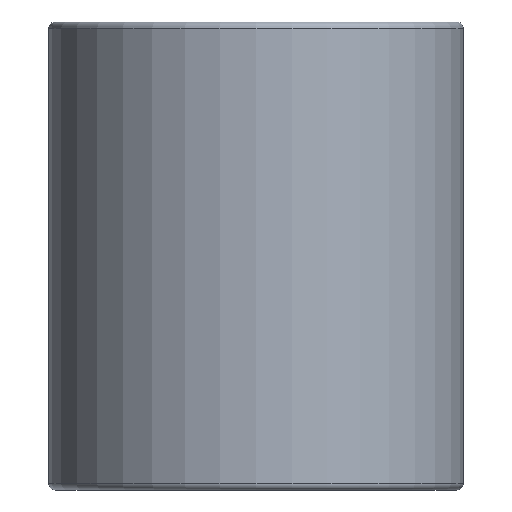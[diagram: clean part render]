
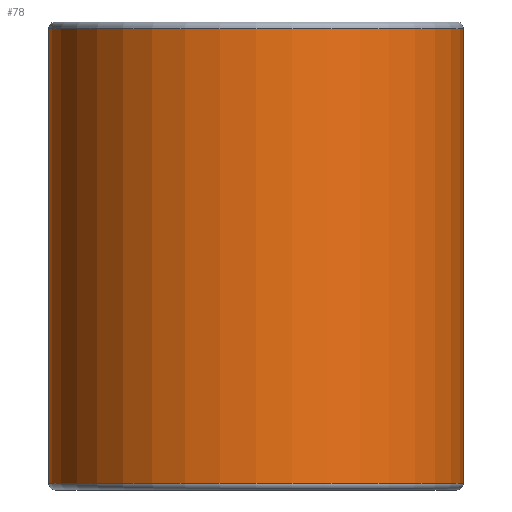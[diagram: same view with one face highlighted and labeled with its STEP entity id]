
A CAD part, front view. The second image highlights one B-rep face of the part: STEP entity #78.
In plain terms, the highlighted cylindrical face has radius 31 mm (diameter 62 mm), a full revolution.
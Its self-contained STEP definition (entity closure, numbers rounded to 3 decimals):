
#78=ADVANCED_FACE('',(#91,#92),#93,.T.);
#91=FACE_OUTER_BOUND('',#109,.T.);
#92=FACE_OUTER_BOUND('',#110,.T.);
#93=CYLINDRICAL_SURFACE('',#111,31.0);
#109=EDGE_LOOP('',(#133));
#110=EDGE_LOOP('',(#134));
#111=AXIS2_PLACEMENT_3D('',#135,#136,#137);
#133=ORIENTED_EDGE('',*,*,#152,.T.);
#134=ORIENTED_EDGE('',*,*,#153,.T.);
#135=CARTESIAN_POINT('',(0.0,0.0,35.0));
#136=DIRECTION('',(-0.0,-0.0,1.0));
#137=DIRECTION('',(-1.0,0.0,0.0));
#152=EDGE_CURVE('',#162,#162,#163,.T.);
#153=EDGE_CURVE('',#164,#164,#165,.F.);
#162=VERTEX_POINT('',#174);
#163=CIRCLE('',#175,31.0);
#164=VERTEX_POINT('',#176);
#165=CIRCLE('',#177,31.0);
#174=CARTESIAN_POINT('',(31.0,0.0,-34.0));
#175=AXIS2_PLACEMENT_3D('',#190,#191,#192);
#176=CARTESIAN_POINT('',(31.0,0.,34.0));
#177=AXIS2_PLACEMENT_3D('',#193,#194,#195);
#190=CARTESIAN_POINT('',(0.0,0.0,-34.0));
#191=DIRECTION('',(0.0,0.0,1.0));
#192=DIRECTION('',(1.0,0.0,0.0));
#193=CARTESIAN_POINT('',(0.0,0.0,34.0));
#194=DIRECTION('',(0.0,0.0,1.0));
#195=DIRECTION('',(1.0,0.0,0.0));
